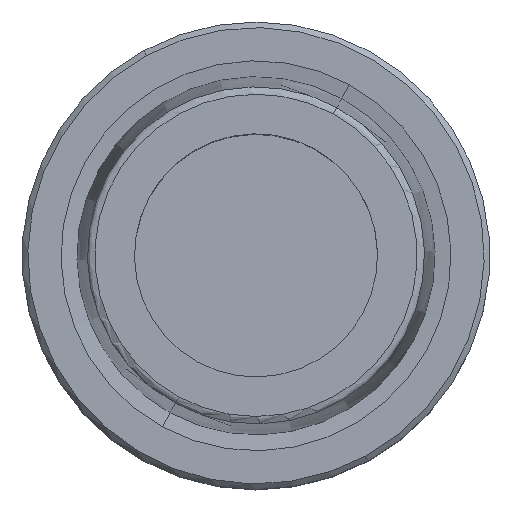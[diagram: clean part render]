
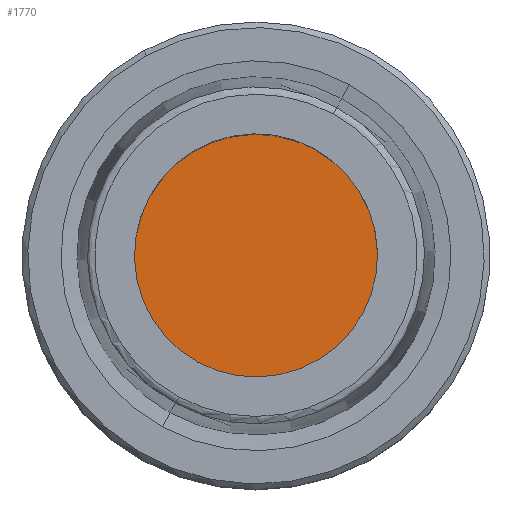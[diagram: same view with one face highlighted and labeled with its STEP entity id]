
A CAD part, top view. The second image highlights one B-rep face of the part: STEP entity #1770.
In plain terms, the highlighted planar face has unit normal (0, 0, 1).
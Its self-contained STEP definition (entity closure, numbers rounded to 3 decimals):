
#1750=AXIS2_PLACEMENT_3D('Plane Axis2P3D',#1747,#1748,#1749) ;
#1754=AXIS2_PLACEMENT_3D('Circle Axis2P3D',#1752,#1753,$) ;
#1763=AXIS2_PLACEMENT_3D('Circle Axis2P3D',#1761,#1762,$) ;
#1747=CARTESIAN_POINT('Axis2P3D Location',(0.,0.,-10.)) ;
#1752=CARTESIAN_POINT('Axis2P3D Location',(0.,0.,-10.)) ;
#1756=CARTESIAN_POINT('Vertex',(-6.233,-11.409,-10.)) ;
#1758=CARTESIAN_POINT('Vertex',(6.233,11.409,-10.)) ;
#1761=CARTESIAN_POINT('Axis2P3D Location',(0.,0.,-10.)) ;
#1748=DIRECTION('Axis2P3D Direction',(0.,0.,1.)) ;
#1749=DIRECTION('Axis2P3D XDirection',(1.,0.,0.)) ;
#1753=DIRECTION('Axis2P3D Direction',(0.,0.,1.)) ;
#1762=DIRECTION('Axis2P3D Direction',(0.,0.,1.)) ;
#1767=ORIENTED_EDGE('',*,*,#1760,.T.) ;
#1768=ORIENTED_EDGE('',*,*,#1765,.T.) ;
#1770=ADVANCED_FACE('NOCUT',(#1769),#1751,.T.) ;
#1755=CIRCLE('generated circle',#1754,13.) ;
#1764=CIRCLE('generated circle',#1763,13.) ;
#1760=EDGE_CURVE('',#1757,#1759,#1755,.T.) ;
#1765=EDGE_CURVE('',#1759,#1757,#1764,.T.) ;
#1766=EDGE_LOOP('',(#1767,#1768)) ;
#1769=FACE_OUTER_BOUND('',#1766,.T.) ;
#1751=PLANE('',#1750) ;
#1757=VERTEX_POINT('',#1756) ;
#1759=VERTEX_POINT('',#1758) ;
